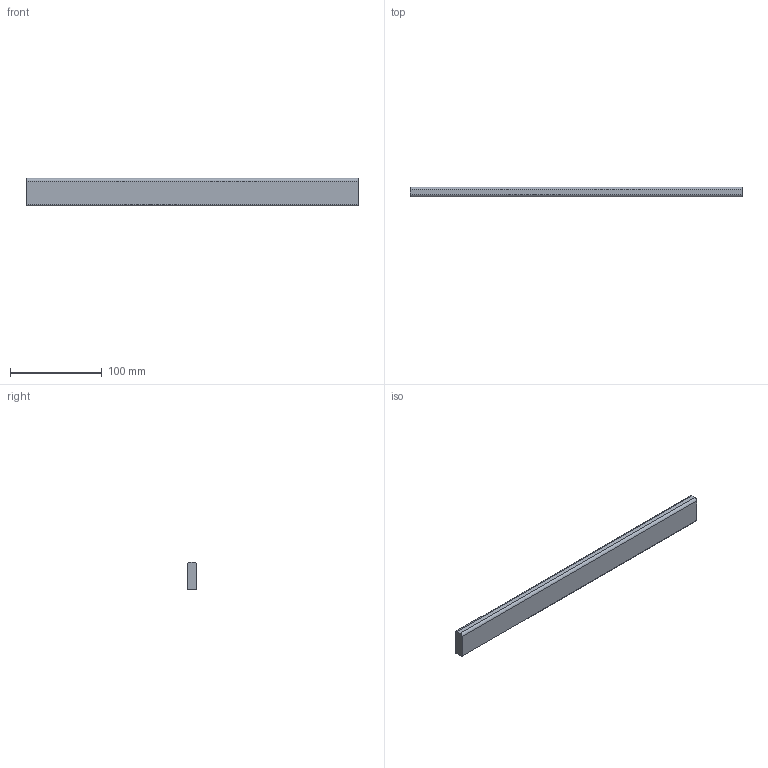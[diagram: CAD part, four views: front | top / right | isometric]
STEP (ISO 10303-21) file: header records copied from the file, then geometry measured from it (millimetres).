
FILE_DESCRIPTION (( 'STEP AP214' ), '1' );
FILE_NAME ('_Querreling_KAB-450_KS-16.step', '2010-08-26T14:59:00', ( 'grass' ), ( '' ), 'SwSTEP 2.0', 'SolidWorks 2009', '' );
FILE_SCHEMA (( 'AUTOMOTIVE_DESIGN' ));
Length unit declared in the file: millimetre
Products named in the file (1): _Querreling_KAB-450_KS-16
Bounding box: 362.5 x 10.5 x 30 mm (x, y, z)
Volume: 112631.6 mm3; surface area: 28739.2 mm2
Topology: 1 solids, 1 shells, 10 faces, 24 edges, 16 vertices
Faces by surface type: plane 6, cylinder 4
Entity records: 330 total; most frequent: DIRECTION 54, CARTESIAN_POINT 51, ORIENTED_EDGE 48, EDGE_CURVE 24, AXIS2_PLACEMENT_3D 19, LINE 16, VECTOR 16, VERTEX_POINT 16
